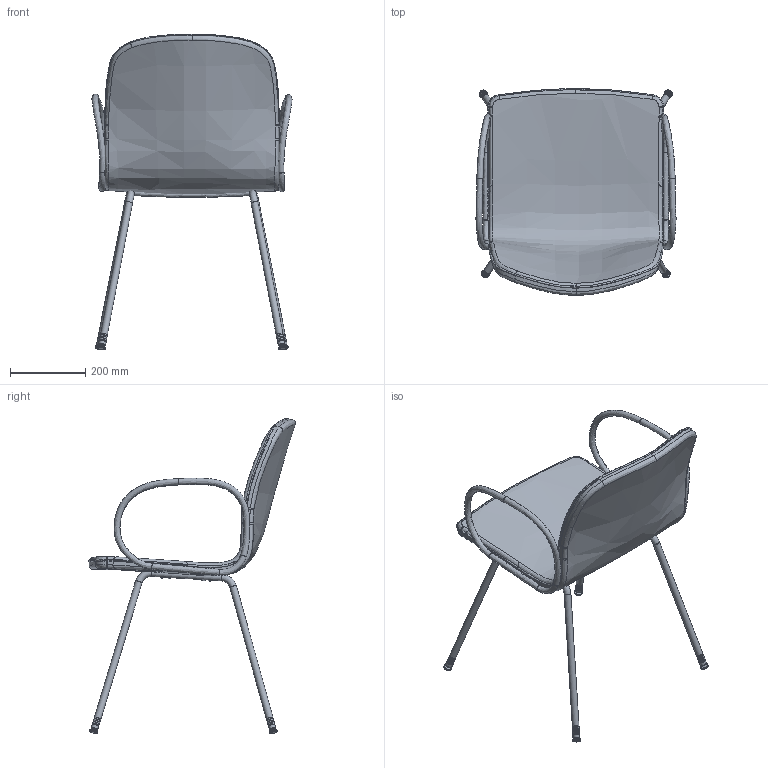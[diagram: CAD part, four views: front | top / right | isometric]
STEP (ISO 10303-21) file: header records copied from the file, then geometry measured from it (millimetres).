
FILE_DESCRIPTION(/* description */ (''),/* implementation_level */ '2;1');
FILE_NAME(/* name */ 'c:\worker\convert-fusion-r07\tmp\job-1\13\output\files\36939e1e-4c12-4d32-b707-83a925411a56\126900f7-47e5-45d9-9b05-a5dc62558025.stp',/* time_stamp */ '2021-10-21T08:44:36+00:00',/* author */ (''),/* organization */ (''),/* preprocessor_version */ 'ST-DEVELOPER v18.1',/* originating_system */ 'Autodesk Translation Framework v10.10.0.1391',/* authorisation */ '');
FILE_SCHEMA (('AUTOMOTIVE_DESIGN { 1 0 10303 214 3 1 1 }'));
Products named in the file (18): WEB soft metal; Loop metallic legs assembly v16; Loop travesaño metal v17; Loop travesaño metal v17 (1); Loop pata metal v15; Loop pata metal v15 (1); contera reclinable v4; LGOL0071983D115835; contera reclinable v4 (1); LGOL0071983D115835 (1); contera reclinable v4 (2); LGOL0071983D115835 (2); contera reclinable v4 (3); LGOL0071983D115835 (3); Loop armrest Assembly Izq v29 (1); Loop Pletina unión Brazo v32 (1); Loop Brazo izq V3 v32 (1); Carcasa baja espuma soft v1
Assembly tree (17 placements, depth 3):
  WEB soft metal
    Loop metallic legs assembly v16
      Loop travesaño metal v17
      Loop travesaño metal v17 (1)
      Loop pata metal v15
      Loop pata metal v15 (1)
    contera reclinable v4
      LGOL0071983D115835
    contera reclinable v4 (1)
      LGOL0071983D115835 (1)
    contera reclinable v4 (2)
      LGOL0071983D115835 (2)
    contera reclinable v4 (3)
      LGOL0071983D115835 (3)
    Loop armrest Assembly Izq v29 (1)
      Loop Pletina unión Brazo v32 (1)
      Loop Brazo izq V3 v32 (1)
    Carcasa baja espuma soft v1
Bounding box: 532.54 x 550.68 x 839.62 mm (x, y, z)
Volume: 11779118.3 mm3; surface area: 1509524.9 mm2
Topology: 17 solids, 22 shells, 747 faces, 2121 edges, 1421 vertices
Faces by surface type: plane 306, bspline 193, cylinder 174, cone 38, torus 28, sphere 8
Full cylindrical faces by diameter (mm): 5 x4, 6 x6, 6.5 x10, 7.7 x4, 12 x24, 14 x6, 18 x10, 21.65 x4
Entity records: 53931 total; most frequent: CARTESIAN_POINT 35763, ORIENTED_EDGE 4212, DIRECTION 3058, EDGE_CURVE 2108, VERTEX_POINT 1425, AXIS2_PLACEMENT_3D 1208, EDGE_LOOP 827, FACE_OUTER_BOUND 747
